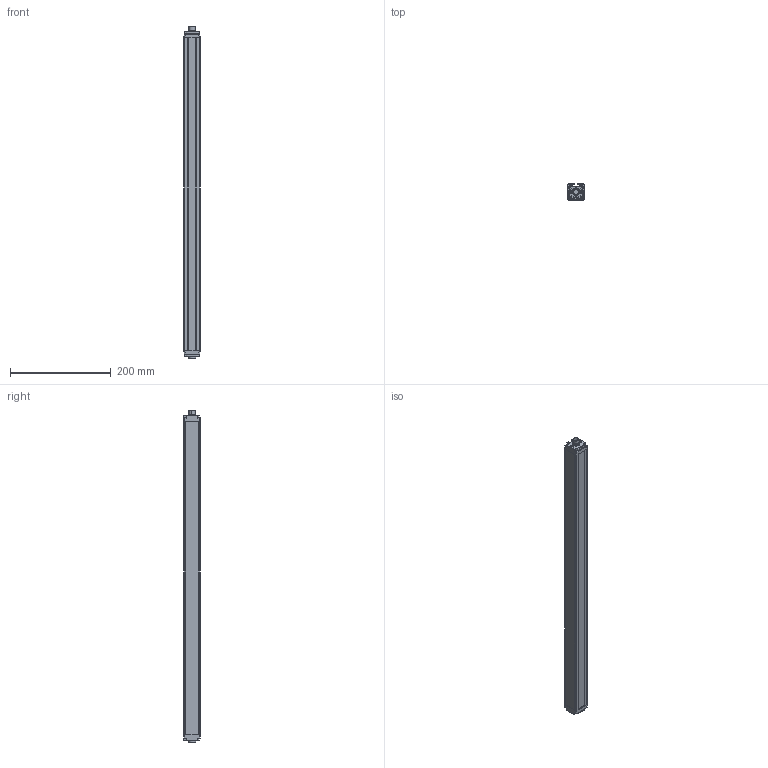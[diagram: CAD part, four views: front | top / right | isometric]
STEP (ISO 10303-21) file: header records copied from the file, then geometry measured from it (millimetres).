
FILE_DESCRIPTION(/* description */ (''),/* implementation_level */ '2;1');
FILE_NAME(/* name */ 'TYG20-30.stp',/* time_stamp */ '2023-08-24T10:52:05+08:00',/* author */ (''),/* organization */ (''),/* preprocessor_version */ 'ST-DEVELOPER v16',/* originating_system */ 'SIEMENS PLM Software NX 11.0',/* authorisation */ '');
FILE_SCHEMA (('AUTOMOTIVE_DESIGN { 1 0 10303 214 3 1 1 1 }'));
Length unit declared in the file: millimetre
Products named in the file (5): YAKELI; B-0823; K-0823; 20230331; TYG20-_stp
Assembly tree (4 placements, depth 2):
  TYG20-_stp
    20230331
    K-0823
    B-0823
    YAKELI
Bounding box: 31.87 x 33.07 x 658 mm (x, y, z)
Volume: 217397 mm3; surface area: 228399.5 mm2
Topology: 4 solids, 4 shells, 629 faces, 1887 edges, 1256 vertices
Faces by surface type: plane 346, cylinder 203, cone 36, sphere 16, torus 16, extrusion 8, bspline 4
Entity records: 21873 total; most frequent: CARTESIAN_POINT 4475, ORIENTED_EDGE 3758, DIRECTION 3551, EDGE_CURVE 1879, VERTEX_POINT 1256, AXIS2_PLACEMENT_3D 1188, VECTOR 1175, LINE 1167
